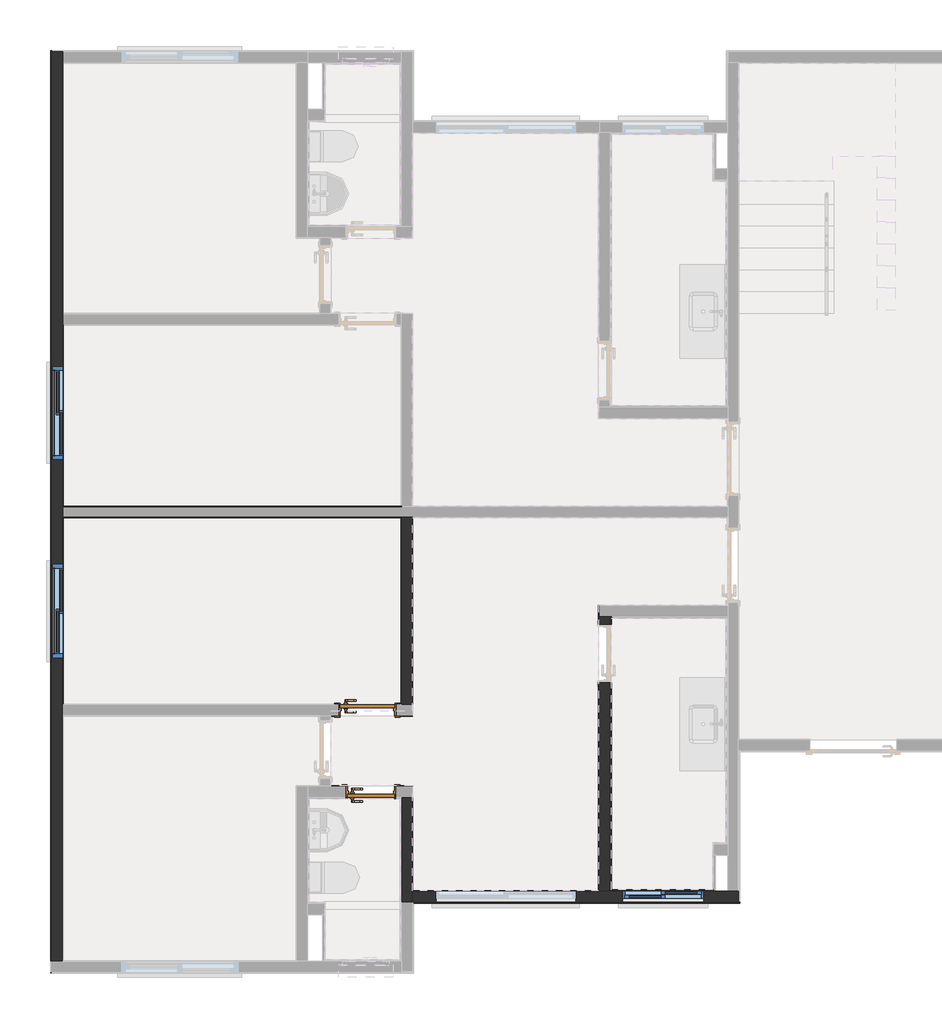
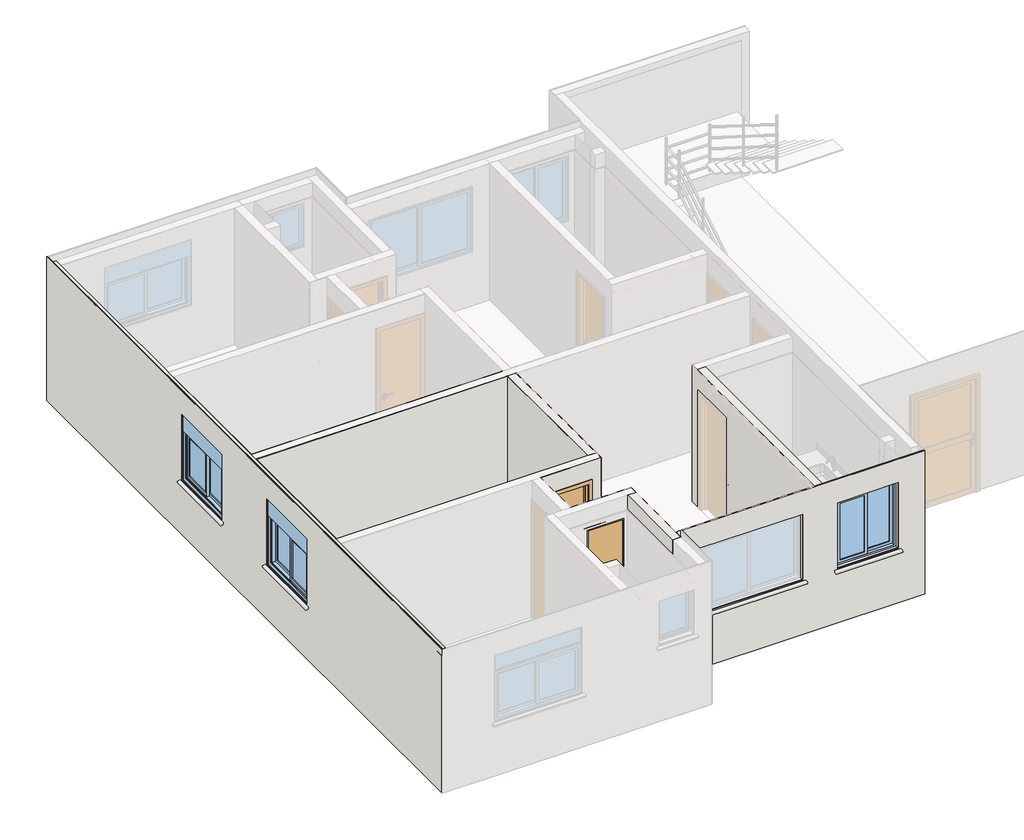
# One storey, part 2 of 11: 20 walls, 3 windows, 2 doors.
"""IFC4 building model written with IfcOpenShell, lengths in millimetres."""

from ifc_helpers import new_model, si_unit, frame, origin, origin_with_axes, place, context, project, spatial, polyline, outline, extrude, faceted_brep, transform, mapped, element, save
from components import porta_de_madeira_interna_60_x_210_porta_de_madeira_interna_53f76a03, porta_de_madeira_interna_70_x_210_porta_de_madeira_interna_d0067c94, window_105x120_f2d7c1f1, window_120x120_fed861a7, window_120x120_8f0dd2b5

model = new_model("IFC4")

# Units and contexts
model_context = context("Model", 3, world=origin())
ifc_project = project(units=[si_unit("LENGTHUNIT", "METRE", prefix="MILLI")], contexts=[model_context])

# Site, building, storey
site = spatial("IfcSite", under=ifc_project)
building = spatial("IfcBuilding", under=site)
storey = spatial("IfcBuildingStorey", under=building, Name="Térreo", Elevation=0.0)

# Doors
placement = place(None, origin())
porta_de_madeira_interna_60_x_210_porta_de_madeira_interna_shape = porta_de_madeira_interna_60_x_210_porta_de_madeira_interna_53f76a03(model_context)
element("IfcDoor", 1, ObjectType="Porta de Madeira Interna 60 x 210 : Porta de Madeira Interna 60 x 210", at=placement, inside=storey, context=model_context, shape_type="MappedRepresentation", body=[
    mapped(porta_de_madeira_interna_60_x_210_porta_de_madeira_interna_shape, transform((4137.9990083, 2796.8217615, 0.0), x_axis=(1.0, 0.0, 0.0), y_axis=(0.0, 1.0, 0.0), z_axis=(0.0, 0.0, 1.0))),
])
porta_de_madeira_interna_70_x_210_porta_de_madeira_interna_shape = porta_de_madeira_interna_70_x_210_porta_de_madeira_interna_d0067c94(model_context)
element("IfcDoor", 2, ObjectType="Porta de Madeira Interna 70 x 210 : Porta de Madeira Interna 70 x 210", at=placement, inside=storey, context=model_context, shape_type="MappedRepresentation", body=[
    mapped(porta_de_madeira_interna_70_x_210_porta_de_madeira_interna_shape, transform((4092.999908, 3853.1701411, 0.0), x_axis=(1.0, 0.0, 0.0), y_axis=(0.0, 1.0, 0.0), z_axis=(0.0, 0.0, 1.0))),
])

# Walls
element("IfcWall", 3, ObjectType="Alvenaria Estrutural", at=placement, inside=storey, context=model_context, shape_type="Brep", body=[
    faceted_brep([(29.9991825, 4525.0101878, 1000.0), (29.9991825, 4525.0101878, 2200.0), (169.9991825, 4525.0101878, 2200.0), (169.9991825, 4525.0101878, 1000.0), (127.4991825, 4525.0101878, 1000.0), (29.9991825, 8275.01044, 2200.0), (29.9991825, 8275.01044, 1000.0), (127.4991825, 8275.01044, 1000.0), (169.9991825, 8275.01044, 1000.0), (169.9991825, 8275.01044, 2200.0), (29.9991825, 619.9952456, 0.0), (29.9991825, 12319.9951043, 0.0), (169.9991825, 12319.9951043, 0.0), (169.9991825, 12180.0252435, 0.0), (169.9991825, 8956.0244803, 0.0), (169.9991825, 8950.0244803, 0.0), (169.9991825, 8810.0244803, 0.0), (169.9991825, 8804.0244803, 0.0), (169.9991825, 6476.0103139, 0.0), (169.9991825, 6470.0103139, 0.0), (169.9991825, 6330.0103139, 0.0), (169.9991825, 6324.0103139, 0.0), (169.9991825, 3925.9951411, 0.0), (169.9991825, 3919.9951411, 0.0), (169.9991825, 3779.9951411, 0.0), (169.9991825, 3773.9951411, 0.0), (169.9991825, 619.9952456, 0.0), (29.9991825, 619.9952456, 2510.0), (169.9991825, 619.9952456, 2510.0), (29.9991825, 12319.9951043, 2510.0), (169.9991825, 12319.9951043, 2510.0), (29.9991825, 4475.0101878, 951.3083694), (29.9991825, 4475.0101878, 1000.0), (127.4991825, 4475.0101878, 1000.0), (127.4991825, 4475.0101878, 972.0326341), (29.9991825, 5775.0101878, 1000.0), (29.9991825, 5775.0101878, 951.3083694), (127.4991825, 5775.0101878, 972.0326341), (127.4991825, 5775.0101878, 1000.0), (127.4991825, 5725.0101878, 1000.0), (29.9991825, 7025.01044, 951.3083694), (29.9991825, 7025.01044, 1000.0), (127.4991825, 7025.01044, 1000.0), (127.4991825, 7025.01044, 972.0326341), (29.9991825, 8325.01044, 1000.0), (29.9991825, 8325.01044, 951.3083694), (127.4991825, 8325.01044, 972.0326341), (127.4991825, 8325.01044, 1000.0), (127.4991825, 7075.01044, 1000.0), (29.9991825, 7075.01044, 1000.0), (29.9991825, 7075.01044, 2200.0), (29.9991825, 5725.0101878, 1000.0), (29.9991825, 5725.0101878, 2200.0), (169.9991825, 12180.0252435, 2510.0), (169.9991825, 8956.0244803, 2510.0), (169.9991825, 8950.0244803, 2510.0), (169.9991825, 8810.0244803, 2510.0), (169.9991825, 8804.0244803, 2510.0), (169.9991825, 6476.0103139, 2510.0), (169.9991825, 6470.0103139, 2510.0), (169.9991825, 6330.0103139, 2510.0), (169.9991825, 6324.0103139, 2510.0), (169.9991825, 3925.9951411, 2510.0), (169.9991825, 3919.9951411, 2510.0), (169.9991825, 3779.9951411, 2510.0), (169.9991825, 3773.9951411, 2510.0), (169.9991825, 5725.0101878, 2200.0), (169.9991825, 5725.0101878, 1000.0), (169.9991825, 7075.01044, 1000.0), (169.9991825, 7075.01044, 2200.0)], [[[0, 1, 2, 3, 4]], [[5, 6, 7, 8, 9]], [[10, 11, 12, 13, 14, 15, 16, 17, 18, 19, 20, 21, 22, 23, 24, 25, 26]], [[27, 10, 26, 28]], [[11, 29, 30, 12]], [[31, 32, 33, 34]], [[35, 36, 37, 38]], [[4, 39, 38, 37, 34, 33]], [[32, 0, 4, 33]], [[36, 31, 34, 37]], [[40, 41, 42, 43]], [[44, 45, 46, 47]], [[48, 7, 47, 46, 43, 42]], [[41, 49, 48, 42]], [[45, 40, 43, 46]], [[11, 10, 27, 29], [41, 40, 45, 44, 6, 5, 50, 49], [51, 52, 1, 0, 32, 31, 36, 35]], [[26, 25, 24, 23, 22, 21, 20, 19, 18, 17, 16, 15, 14, 13, 12, 30, 53, 54, 55, 56, 57, 58, 59, 60, 61, 62, 63, 64, 65, 28], [66, 67, 3, 2], [68, 69, 9, 8]], [[52, 51, 39, 67, 66]], [[1, 52, 66, 2]], [[3, 67, 39, 4]], [[49, 50, 69, 68, 48]], [[50, 5, 9, 69]], [[68, 8, 7, 48]], [[6, 44, 47, 7]], [[51, 35, 38, 39]], [[29, 27, 28, 65, 64, 63, 62, 61, 60, 59, 58, 57, 56, 55, 54, 53, 30]]]),
    faceted_brep([(29.9991825, 12319.9951043, 0.0), (29.9991825, 619.9952456, 0.0), (29.9991825, 619.9952456, 2510.0), (29.9991825, 12319.9951043, 2510.0), (29.9991825, 5725.0101878, 1000.0), (29.9991825, 5725.0101878, 2200.0), (29.9991825, 4525.0101878, 2200.0), (29.9991825, 4525.0101878, 1000.0), (29.9991825, 4475.0101878, 1000.0), (29.9991825, 4475.0101878, 951.3083694), (29.9991825, 5775.0101878, 951.3083694), (29.9991825, 5775.0101878, 1000.0), (29.9991825, 7025.01044, 1000.0), (29.9991825, 7025.01044, 951.3083694), (29.9991825, 8325.01044, 951.3083694), (29.9991825, 8325.01044, 1000.0), (29.9991825, 8275.01044, 1000.0), (29.9991825, 8275.01044, 2200.0), (29.9991825, 7075.01044, 2200.0), (29.9991825, 7075.01044, 1000.0), (169.9991825, 619.9952456, 0.0), (169.9991825, 3773.9951411, 0.0), (169.9991825, 3779.9951411, 0.0), (169.9991825, 3919.9951411, 0.0), (169.9991825, 3925.9951411, 0.0), (169.9991825, 6324.0103139, 0.0), (169.9991825, 6330.0103139, 0.0), (169.9991825, 6470.0103139, 0.0), (169.9991825, 6476.0103139, 0.0), (169.9991825, 8804.0244803, 0.0), (169.9991825, 8810.0244803, 0.0), (169.9991825, 8950.0244803, 0.0), (169.9991825, 8956.0244803, 0.0), (169.9991825, 12180.0252435, 0.0), (169.9991825, 12319.9951043, 0.0), (169.9991825, 12319.9951043, 2510.0), (169.9991825, 12180.0252435, 2510.0), (169.9991825, 8956.0244803, 2510.0), (169.9991825, 8950.0244803, 2510.0), (169.9991825, 8810.0244803, 2510.0), (169.9991825, 8804.0244803, 2510.0), (169.9991825, 6476.0103139, 2510.0), (169.9991825, 6470.0103139, 2510.0), (169.9991825, 6330.0103139, 2510.0), (169.9991825, 6324.0103139, 2510.0), (169.9991825, 3925.9951411, 2510.0), (169.9991825, 3919.9951411, 2510.0), (169.9991825, 3779.9951411, 2510.0), (169.9991825, 3773.9951411, 2510.0), (169.9991825, 619.9952456, 2510.0), (169.9991825, 5725.0101878, 2200.0), (169.9991825, 5725.0101878, 1000.0), (169.9991825, 4525.0101878, 1000.0), (169.9991825, 4525.0101878, 2200.0), (169.9991825, 7075.01044, 1000.0), (169.9991825, 7075.01044, 2200.0), (169.9991825, 8275.01044, 2200.0), (169.9991825, 8275.01044, 1000.0), (127.4991825, 5725.0101878, 1000.0), (127.4991825, 4525.0101878, 1000.0), (127.4991825, 7075.01044, 1000.0), (127.4991825, 8275.01044, 1000.0), (127.4991825, 4475.0101878, 1000.0), (127.4991825, 4475.0101878, 972.0326341), (127.4991825, 5775.0101878, 972.0326341), (127.4991825, 5775.0101878, 1000.0), (127.4991825, 7025.01044, 1000.0), (127.4991825, 7025.01044, 972.0326341), (127.4991825, 8325.01044, 972.0326341), (127.4991825, 8325.01044, 1000.0)], [[[0, 1, 2, 3], [4, 5, 6, 7, 8, 9, 10, 11], [12, 13, 14, 15, 16, 17, 18, 19]], [[20, 21, 22, 23, 24, 25, 26, 27, 28, 29, 30, 31, 32, 33, 34, 35, 36, 37, 38, 39, 40, 41, 42, 43, 44, 45, 46, 47, 48, 49], [50, 51, 52, 53], [54, 55, 56, 57]], [[5, 4, 58, 51, 50]], [[6, 5, 50, 53]], [[7, 6, 53, 52, 59]], [[52, 51, 58, 59]], [[19, 18, 55, 54, 60]], [[18, 17, 56, 55]], [[17, 16, 61, 57, 56]], [[54, 57, 61, 60]], [[1, 0, 34, 33, 32, 31, 30, 29, 28, 27, 26, 25, 24, 23, 22, 21, 20]], [[2, 1, 20, 49]], [[3, 2, 49, 48, 47, 46, 45, 44, 43, 42, 41, 40, 39, 38, 37, 36, 35]], [[0, 3, 35, 34]], [[9, 8, 62, 63]], [[11, 10, 64, 65]], [[59, 58, 65, 64, 63, 62]], [[8, 7, 59, 62]], [[10, 9, 63, 64]], [[13, 12, 66, 67]], [[15, 14, 68, 69]], [[60, 61, 69, 68, 67, 66]], [[12, 19, 60, 66]], [[14, 13, 67, 68]], [[16, 15, 69, 61]], [[4, 11, 65, 58]]]),
])
element("IfcWall", 4, ObjectType="Alvenaria Estrutural", at=placement, inside=storey, context=model_context, shape_type="Brep", body=[
    faceted_brep([(4529.9996867, 6330.0103139, 0.0), (4529.9996867, 6324.0103139, 0.0), (4529.9996867, 3925.9951411, 0.0), (4529.9996867, 3919.9951411, 0.0), (4529.9996867, 3919.9951411, 2510.0), (4529.9996867, 3925.9951411, 2510.0), (4529.9996867, 6324.0103139, 2510.0), (4529.9996867, 6330.0103139, 2510.0), (4669.9996867, 6330.0103139, 0.0), (4669.9996867, 6330.0103139, 2510.0), (4669.9996867, 6324.0103139, 2510.0), (4669.9996867, 3919.9951411, 2510.0), (4669.9996867, 3919.9951411, 0.0), (4669.9996867, 6324.0103139, 0.0)], [[[0, 1, 2, 3, 4, 5, 6, 7]], [[8, 9, 10, 11, 12, 13]], [[1, 0, 8, 13, 12, 3, 2]], [[5, 4, 11, 10, 9, 7, 6]], [[0, 7, 9, 8]], [[4, 3, 12, 11]]]),
    faceted_brep([(4529.9996867, 6324.0103139, 0.0), (4529.9996867, 6330.0103139, 0.0), (4669.9996867, 6330.0103139, 0.0), (4669.9996867, 6324.0103139, 0.0), (4669.9996867, 3919.9951411, 0.0), (4529.9996867, 3919.9951411, 0.0), (4529.9996867, 3925.9951411, 0.0), (4529.9996867, 3925.9951411, 2510.0), (4529.9996867, 3919.9951411, 2510.0), (4669.9996867, 3919.9951411, 2510.0), (4669.9996867, 6324.0103139, 2510.0), (4669.9996867, 6330.0103139, 2510.0), (4529.9996867, 6330.0103139, 2510.0), (4529.9996867, 6324.0103139, 2510.0)], [[[0, 1, 2, 3, 4, 5, 6]], [[7, 8, 9, 10, 11, 12, 13]], [[2, 11, 10, 9, 4, 3]], [[1, 0, 6, 5, 8, 7, 13, 12]], [[1, 12, 11, 2]], [[8, 5, 4, 9]]]),
])
element("IfcWall", 5, ObjectType="Alvenaria Estrutural", at=placement, inside=storey, context=model_context, shape_type="Brep", body=[
    faceted_brep([(4669.9990083, 1374.9970972, 0.0), (4669.9990083, 1519.9983274, 0.0), (4669.9990083, 1525.9983274, 0.0), (4669.9990083, 2729.9967615, 0.0), (4669.9990083, 2729.9967615, 2510.0), (4669.9990083, 1525.9983274, 2510.0), (4669.9990083, 1519.9983274, 2510.0), (4669.9990083, 1374.9970972, 2510.0), (4529.9990083, 1374.9970972, 0.0), (4529.9990083, 1374.9970972, 2510.0), (4529.9990083, 2729.9967615, 2510.0), (4529.9990083, 2729.9967615, 2250.0), (4529.9990083, 2729.9967615, 0.0), (4529.9990083, 2709.9967615, 0.0)], [[[0, 1, 2, 3, 4, 5, 6, 7]], [[8, 9, 10, 11, 12, 13]], [[1, 0, 8, 13, 12, 3, 2]], [[5, 4, 10, 9, 7, 6]], [[0, 7, 9, 8]], [[4, 3, 12, 11, 10]]]),
    faceted_brep([(4669.9990083, 1519.9983274, 0.0), (4669.9990083, 1374.9970972, 0.0), (4529.9990083, 1374.9970972, 0.0), (4529.9990083, 2709.9967615, 0.0), (4529.9990083, 2729.9967615, 0.0), (4669.9990083, 2729.9967615, 0.0), (4669.9990083, 1525.9983274, 0.0), (4669.9990083, 1525.9983274, 2510.0), (4669.9990083, 2729.9967615, 2510.0), (4529.9990083, 2729.9967615, 2510.0), (4529.9990083, 1374.9970972, 2510.0), (4669.9990083, 1374.9970972, 2510.0), (4669.9990083, 1519.9983274, 2510.0), (4529.9990083, 2729.9967615, 2250.0)], [[[0, 1, 2, 3, 4, 5, 6]], [[7, 8, 9, 10, 11, 12]], [[1, 11, 10, 2]], [[1, 0, 6, 5, 8, 7, 12, 11]], [[2, 10, 9, 13, 4, 3]], [[8, 5, 4, 13, 9]]]),
])
element("IfcWall", 6, ObjectType="Alvenaria Estrutural", at=placement, inside=storey, context=model_context, shape_type="Brep", body=[
    faceted_brep([(4669.9990083, 1379.9983274, 10.0), (8869.9990083, 1379.9983274, 10.0), (8869.9990083, 1379.9983274, 2520.0), (4669.9990083, 1379.9983274, 2520.0), (4924.99925, 1379.9983274, 951.3083694), (4924.99925, 1379.9983274, 1000.0), (4974.99925, 1379.9983274, 1000.0), (4974.99925, 1379.9983274, 2200.0), (6774.99925, 1379.9983274, 2200.0), (6774.99925, 1379.9983274, 1000.0), (6824.99925, 1379.9983274, 1000.0), (6824.99925, 1379.9983274, 951.3083694), (8474.99921, 1379.9983274, 1000.0), (8474.99921, 1379.9983274, 951.3083694), (7324.99921, 1379.9983274, 951.3083694), (7324.99921, 1379.9983274, 1000.0), (7374.99921, 1379.9983274, 1000.0), (7374.99921, 1379.9983274, 2200.0), (8424.99921, 1379.9983274, 2200.0), (8424.99921, 1379.9983274, 1000.0), (8869.9990083, 1519.9983274, 10.0), (4669.9990083, 1519.9983274, 10.0), (4669.9990083, 1519.9983274, 2510.0), (4669.9990083, 1519.9983274, 2520.0), (8869.9990083, 1519.9983274, 2520.0), (8424.99921, 1519.9983274, 1000.0), (8424.99921, 1519.9983274, 2200.0), (7374.99921, 1519.9983274, 2200.0), (7374.99921, 1519.9983274, 1000.0), (6774.99925, 1519.9983274, 1000.0), (6774.99925, 1519.9983274, 2200.0), (4974.99925, 1519.9983274, 2200.0), (4974.99925, 1519.9983274, 1000.0), (8474.99921, 1477.4983274, 1000.0), (8474.99921, 1477.4983274, 972.0326341), (7324.99921, 1477.4983274, 972.0326341), (7324.99921, 1477.4983274, 1000.0), (8424.99921, 1477.4983274, 1000.0), (7374.99921, 1477.4983274, 1000.0), (4924.99925, 1477.4983274, 972.0326341), (4924.99925, 1477.4983274, 1000.0), (6824.99925, 1477.4983274, 1000.0), (6824.99925, 1477.4983274, 972.0326341), (6774.99925, 1477.4983274, 1000.0), (4974.99925, 1477.4983274, 1000.0)], [[[0, 1, 2, 3], [4, 5, 6, 7, 8, 9, 10, 11], [12, 13, 14, 15, 16, 17, 18, 19]], [[20, 21, 22, 23, 24], [25, 26, 27, 28], [29, 30, 31, 32]], [[1, 0, 21, 20]], [[2, 1, 20, 24]], [[3, 2, 24, 23]], [[0, 3, 23, 22, 21]], [[13, 12, 33, 34]], [[15, 14, 35, 36]], [[34, 33, 37, 38, 36, 35]], [[12, 19, 37, 33]], [[14, 13, 34, 35]], [[19, 18, 26, 25, 37]], [[18, 17, 27, 26]], [[17, 16, 38, 28, 27]], [[25, 28, 38, 37]], [[5, 4, 39, 40]], [[11, 10, 41, 42]], [[40, 39, 42, 41, 43, 44]], [[6, 5, 40, 44]], [[4, 11, 42, 39]], [[9, 8, 30, 29, 43]], [[8, 7, 31, 30]], [[7, 6, 44, 32, 31]], [[29, 32, 44, 43]], [[10, 9, 43, 41]], [[16, 15, 36, 38]]]),
    faceted_brep([(8869.9990083, 1379.9983274, 2520.0), (8869.9990083, 1379.9983274, 10.0), (8869.9990083, 1519.9983274, 10.0), (8869.9990083, 1519.9983274, 2520.0), (4669.9990083, 1379.9983274, 2520.0), (4669.9990083, 1519.9983274, 2520.0), (4669.9990083, 1379.9983274, 10.0), (4669.9990083, 1519.9983274, 2510.0), (4669.9990083, 1519.9983274, 10.0), (8474.99921, 1379.9983274, 951.3083694), (8474.99921, 1379.9983274, 1000.0), (8474.99921, 1477.4983274, 1000.0), (8474.99921, 1477.4983274, 972.0326341), (7324.99921, 1379.9983274, 1000.0), (7324.99921, 1379.9983274, 951.3083694), (7324.99921, 1477.4983274, 972.0326341), (7324.99921, 1477.4983274, 1000.0), (8424.99921, 1477.4983274, 1000.0), (7374.99921, 1477.4983274, 1000.0), (8424.99921, 1379.9983274, 1000.0), (8424.99921, 1379.9983274, 2200.0), (8424.99921, 1519.9983274, 2200.0), (8424.99921, 1519.9983274, 1000.0), (7374.99921, 1379.9983274, 2200.0), (7374.99921, 1519.9983274, 2200.0), (7374.99921, 1379.9983274, 1000.0), (7374.99921, 1519.9983274, 1000.0), (6774.99925, 1519.9983274, 1000.0), (6774.99925, 1519.9983274, 2200.0), (4974.99925, 1519.9983274, 2200.0), (4974.99925, 1519.9983274, 1000.0), (4924.99925, 1379.9983274, 951.3083694), (4924.99925, 1379.9983274, 1000.0), (4974.99925, 1379.9983274, 1000.0), (4974.99925, 1379.9983274, 2200.0), (6774.99925, 1379.9983274, 2200.0), (6774.99925, 1379.9983274, 1000.0), (6824.99925, 1379.9983274, 1000.0), (6824.99925, 1379.9983274, 951.3083694), (4924.99925, 1477.4983274, 972.0326341), (4924.99925, 1477.4983274, 1000.0), (6824.99925, 1477.4983274, 1000.0), (6824.99925, 1477.4983274, 972.0326341), (6774.99925, 1477.4983274, 1000.0), (4974.99925, 1477.4983274, 1000.0)], [[[0, 1, 2, 3]], [[4, 0, 3, 5]], [[6, 4, 5, 7, 8]], [[9, 10, 11, 12]], [[13, 14, 15, 16]], [[12, 11, 17, 18, 16, 15]], [[10, 19, 17, 11]], [[14, 9, 12, 15]], [[19, 20, 21, 22, 17]], [[20, 23, 24, 21]], [[23, 25, 18, 26, 24]], [[22, 26, 18, 17]], [[25, 13, 16, 18]], [[8, 7, 5, 3, 2], [22, 21, 24, 26], [27, 28, 29, 30]], [[1, 0, 4, 6], [10, 9, 14, 13, 25, 23, 20, 19], [31, 32, 33, 34, 35, 36, 37, 38]], [[32, 31, 39, 40]], [[38, 37, 41, 42]], [[40, 39, 42, 41, 43, 44]], [[33, 32, 40, 44]], [[31, 38, 42, 39]], [[36, 35, 28, 27, 43]], [[35, 34, 29, 28]], [[34, 33, 44, 30, 29]], [[27, 30, 44, 43]], [[37, 36, 43, 41]], [[1, 6, 8, 2]]]),
])
element("IfcWall", 7, ObjectType="Alvenaria Estrutural", at=placement, inside=storey, context=model_context, shape_type="Brep", body=[
    faceted_brep([(7212.9986861, 1519.9983274, 0.0), (7212.9986861, 1519.9983274, 10.0), (7212.9986861, 1519.9983274, 2250.0), (7212.9986861, 1519.9983274, 2510.0), (7072.9986861, 1519.9983274, 2510.0), (7072.9986861, 1519.9983274, 10.0), (7072.9986861, 1519.9983274, 0.0), (7212.9986861, 1539.9983274, 0.0), (7072.9986861, 1525.9983274, 0.0), (7072.9986861, 4203.6603139, 0.0), (7212.9986861, 4203.6603139, 0.0), (7212.9986861, 4203.6603139, 10.0), (7072.9986861, 4203.6603139, 10.0), (7072.9986861, 4203.6603139, 2125.0), (7212.9986861, 4203.6603139, 2125.0), (7212.9986861, 4953.6603139, 0.0), (7212.9986861, 4953.6603139, 10.0), (7212.9986861, 4953.6603139, 2125.0), (7072.9986861, 4953.6603139, 2125.0), (7072.9986861, 4953.6603139, 10.0), (7072.9986861, 4953.6603139, 0.0), (7212.9986861, 5033.6603139, 0.0), (7072.9986861, 5053.6603139, 0.0), (7212.9986861, 5053.6603139, 0.0), (7212.9986861, 5053.6603139, 10.0), (7072.9986861, 5053.6603139, 10.0), (7072.9986861, 5053.6603139, 2510.0), (7212.9986861, 5053.6603139, 2510.0), (7212.9986861, 5053.6603139, 2250.0), (7072.9986861, 1525.9983274, 2510.0)], [[[0, 1, 2, 3, 4, 5, 6]], [[7, 0, 6, 8, 9, 10]], [[11, 10, 9, 12, 13, 14]], [[15, 16, 17, 18, 19, 20]], [[21, 15, 20, 22, 23]], [[24, 23, 22, 25, 26, 27, 28]], [[25, 22, 20, 19, 18, 13, 12, 9, 8, 6, 5, 4, 29, 26]], [[3, 27, 26, 29, 4]], [[17, 14, 13, 18]], [[16, 15, 21, 23, 24, 28, 27, 3, 2, 1, 0, 7, 10, 11, 14, 17]]]),
])
element("IfcWall", 8, ObjectType="Azulejo", at=placement, inside=storey, context=model_context, shape_type="Brep", body=[
    faceted_brep([(7233.0017324, 4203.6603139, 0.0), (7233.0017324, 1519.9983274, 0.0), (7223.0017324, 1519.9983274, 0.0), (7223.0017324, 4203.6603139, 0.0), (7223.0017324, 4203.6603139, 10.0), (7223.0017324, 4203.6603139, 2125.0), (7233.0017324, 4203.6603139, 2125.0), (7233.0017324, 4203.6603139, 10.0), (7233.0017324, 4953.6603139, 0.0), (7233.0017324, 4953.6603139, 10.0), (7233.0017324, 4953.6603139, 2125.0), (7223.0017324, 4953.6603139, 2125.0), (7223.0017324, 4953.6603139, 10.0), (7223.0017324, 4953.6603139, 0.0), (7223.0017324, 5053.6603139, 0.0), (7233.0017324, 5053.6603139, 0.0), (7233.0017324, 5053.6603139, 10.0), (7223.0017324, 5053.6603139, 10.0), (7223.0017324, 5053.6603139, 2250.0), (7233.0017324, 5053.6603139, 2250.0), (7233.0017324, 1519.9983274, 10.0), (7233.0017324, 1519.9983274, 2250.0), (7223.0017324, 1519.9983274, 2250.0), (7223.0017324, 1519.9983274, 10.0)], [[[0, 1, 2, 3]], [[0, 3, 4, 5, 6, 7]], [[8, 9, 10, 11, 12, 13]], [[8, 13, 14, 15]], [[16, 15, 14, 17, 18, 19]], [[2, 1, 20, 21, 22, 23]], [[1, 0, 7, 6, 10, 9, 8, 15, 16, 19, 21, 20]], [[3, 2, 23, 22, 18, 17, 14, 13, 12, 11, 5, 4]], [[10, 6, 5, 11]], [[21, 19, 18, 22]]]),
    faceted_brep([(7223.0017324, 4203.6603139, 0.0), (7223.0017324, 1519.9983274, 0.0), (7213.0017324, 1519.9983274, 0.0), (7213.0017324, 4203.6603139, 0.0), (7223.0017324, 4203.6603139, 10.0), (7213.0017324, 4203.6603139, 10.0), (7213.0017324, 4203.6603139, 2125.0), (7223.0017324, 4203.6603139, 2125.0), (7223.0017324, 4953.6603139, 0.0), (7223.0017324, 4953.6603139, 10.0), (7223.0017324, 4953.6603139, 2125.0), (7213.0017324, 4953.6603139, 2125.0), (7213.0017324, 4953.6603139, 10.0), (7213.0017324, 4953.6603139, 0.0), (7223.0017324, 5053.6603139, 0.0), (7213.0017324, 5053.6603139, 0.0), (7223.0017324, 5053.6603139, 10.0), (7213.0017324, 5053.6603139, 10.0), (7213.0017324, 5053.6603139, 2250.0), (7223.0017324, 5053.6603139, 2250.0), (7223.0017324, 1519.9983274, 10.0), (7223.0017324, 1519.9983274, 2250.0), (7213.0017324, 1519.9983274, 2250.0), (7213.0017324, 1519.9983274, 10.0)], [[[0, 1, 2, 3]], [[4, 0, 3, 5, 6, 7]], [[8, 9, 10, 11, 12, 13]], [[14, 8, 13, 15]], [[16, 14, 15, 17, 18, 19]], [[1, 20, 21, 22, 23, 2]], [[17, 15, 13, 12, 11, 6, 5, 3, 2, 23, 22, 18]], [[10, 7, 6, 11]], [[21, 19, 18, 22]], [[9, 8, 14, 16, 19, 21, 20, 1, 0, 4, 7, 10]]]),
])
element("IfcWall", 9, ObjectType="Azulejo", at=placement, inside=storey, context=model_context, shape_type="SolidModel", body=[
    faceted_brep([(8536.99631, 1539.9983274, 0.0), (8546.99631, 1539.9983274, 0.0), (8546.99631, 1529.9983274, 0.0), (7212.9986861, 1529.9983274, 0.0), (7212.9986861, 1539.9983274, 0.0), (8536.99631, 1539.9983274, 2250.0), (7212.9986861, 1539.9983274, 2250.0), (7212.9986861, 1529.9983274, 2250.0), (8546.99631, 1529.9983274, 2250.0), (8546.99631, 1539.9983274, 2250.0), (8424.99921, 1539.9983274, 2200.0), (8424.99921, 1539.9983274, 1000.0), (8424.99921, 1529.9983274, 1000.0), (8424.99921, 1529.9983274, 2200.0), (7374.99921, 1539.9983274, 2200.0), (7374.99921, 1529.9983274, 2200.0), (7374.99921, 1539.9983274, 1000.0), (7374.99921, 1529.9983274, 1000.0)], [[[0, 1, 2, 3, 4]], [[5, 6, 7, 8, 9]], [[10, 11, 12, 13]], [[14, 10, 13, 15]], [[16, 14, 15, 17]], [[11, 16, 17, 12]], [[6, 4, 3, 7]], [[1, 9, 8, 2]], [[3, 2, 8, 7], [13, 12, 17, 15]], [[4, 6, 5, 9, 1, 0], [11, 10, 14, 16]]]),
    extrude(outline(polyline([(0.0, 7212.9986861), (0.0, 8546.99631), (2250.0, 8546.99631), (2250.0, 7212.9986861), (0.0, 7212.9986861)]), holes=[polyline([(1000.0, 8424.99921), (1000.0, 7374.99921), (2200.0, 7374.99921), (2200.0, 8424.99921), (1000.0, 8424.99921)])]), frame((0.0, 1519.9983274, 0.0), z_axis=(0.0, 1.0, 0.0), x_axis=(0.0, 0.0, 1.0)), (0.0, 0.0, 1.0), 10.0),
])
element("IfcWall", 10, ObjectType="Gesso Liso + Pintura", at=placement, inside=storey, context=model_context, shape_type="SweptSolid", body=[
    extrude(outline(polyline([(8810.0244803, 0.0), (6470.0103139, 0.0), (6470.0103139, 2510.0), (8810.0244803, 2510.0), (8810.0244803, 0.0)]), holes=[polyline([(7075.01044, 2200.0), (7075.01044, 1000.0), (8275.01044, 1000.0), (8275.01044, 2200.0), (7075.01044, 2200.0)])]), frame((174.9991825, 0.0, 0.0), z_axis=(1.0, 0.0, 0.0), x_axis=(0.0, 1.0, 0.0)), (0.0, 0.0, 1.0), 1.0),
    extrude(outline(polyline([(6470.0103139, 0.0), (6470.0103139, 2510.0), (8810.0244803, 2510.0), (8810.0244803, 0.0), (6470.0103139, 0.0)]), holes=[polyline([(7075.01044, 1000.0), (8275.01044, 1000.0), (8275.01044, 2200.0), (7075.01044, 2200.0), (7075.01044, 1000.0)])]), frame((169.9991825, 0.0, 0.0), z_axis=(1.0, 0.0, 0.0), x_axis=(0.0, 1.0, 0.0)), (0.0, 0.0, 1.0), 5.0),
])
element("IfcWall", 11, ObjectType="Gesso Liso + Pintura", at=placement, inside=storey, context=model_context, shape_type="SweptSolid", body=[
    extrude(outline(polyline([(169.9991825, 6476.0103139), (4529.9996867, 6476.0103139), (4529.9996867, 6475.0103139), (169.9991825, 6475.0103139), (169.9991825, 6476.0103139)])), origin_with_axes(), (0.0, 0.0, 1.0), 2510.0),
    extrude(outline(polyline([(4529.9996867, 6470.0103139), (169.9991825, 6470.0103139), (169.9991825, 6475.0103139), (4529.9996867, 6475.0103139), (4529.9996867, 6470.0103139)])), origin_with_axes(), (0.0, 0.0, 1.0), 2510.0),
])
element("IfcWall", 12, ObjectType="Gesso Liso + Pintura", at=placement, inside=storey, context=model_context, shape_type="SweptSolid", body=[
    extrude(outline(polyline([(6330.0103139, 0.0), (3919.9951411, 0.0), (3919.9951411, 2510.0), (6330.0103139, 2510.0), (6330.0103139, 0.0)]), holes=[polyline([(5725.0101878, 1000.0), (5725.0101878, 2200.0), (4525.0101878, 2200.0), (4525.0101878, 1000.0), (5725.0101878, 1000.0)])]), frame((174.9991825, 0.0, 0.0), z_axis=(1.0, 0.0, 0.0), x_axis=(0.0, 1.0, 0.0)), (0.0, 0.0, 1.0), 1.0),
    extrude(outline(polyline([(6330.0103139, 0.0), (3919.9951411, 0.0), (3919.9951411, 2510.0), (6330.0103139, 2510.0), (6330.0103139, 0.0)]), holes=[polyline([(5725.0101878, 1000.0), (5725.0101878, 2200.0), (4525.0101878, 2200.0), (4525.0101878, 1000.0), (5725.0101878, 1000.0)])]), frame((169.9991825, 0.0, 0.0), z_axis=(1.0, 0.0, 0.0), x_axis=(0.0, 1.0, 0.0)), (0.0, 0.0, 1.0), 5.0),
])
element("IfcWall", 13, ObjectType="Gesso Liso + Pintura", at=placement, inside=storey, context=model_context, shape_type="SweptSolid", body=[
    extrude(outline(polyline([(4523.9996867, 3919.9951411), (4523.9996867, 6330.0103139), (4524.9996867, 6330.0103139), (4524.9996867, 3919.9951411), (4523.9996867, 3919.9951411)])), origin_with_axes(), (0.0, 0.0, 1.0), 2510.0),
    extrude(outline(polyline([(4529.9996867, 6330.0103139), (4529.9996867, 3919.9951411), (4524.9996867, 3919.9951411), (4524.9996867, 6330.0103139), (4529.9996867, 6330.0103139)])), origin_with_axes(), (0.0, 0.0, 1.0), 2510.0),
])
element("IfcWall", 14, ObjectType="Gesso Liso + Pintura", at=placement, inside=storey, context=model_context, shape_type="SweptSolid", body=[
    extrude(outline(polyline([(4529.9996867, 6324.0103139), (169.9991825, 6324.0103139), (169.9991825, 6325.0103139), (4529.9996867, 6325.0103139), (4529.9996867, 6324.0103139)])), origin_with_axes(), (0.0, 0.0, 1.0), 2510.0),
    extrude(outline(polyline([(169.9991825, 6330.0103139), (4529.9996867, 6330.0103139), (4529.9996867, 6325.0103139), (169.9991825, 6325.0103139), (169.9991825, 6330.0103139)])), origin_with_axes(), (0.0, 0.0, 1.0), 2510.0),
])
element("IfcWall", 15, ObjectType="Gesso Liso + Pintura", at=placement, inside=storey, context=model_context, shape_type="Brep", body=[
    faceted_brep([(4675.9990083, 2875.9967615, 0.0), (4675.9990083, 1519.9983274, 0.0), (4674.9990083, 1519.9983274, 0.0), (4674.9990083, 2875.9967615, 0.0), (4674.9990083, 2875.9967615, 10.0), (4674.9990083, 2875.9967615, 2510.0), (4675.9990083, 2875.9967615, 2510.0), (4675.9990083, 2875.9967615, 10.0), (4675.9990083, 1519.9983274, 10.0), (4675.9990083, 1519.9983274, 2510.0), (4674.9990083, 1519.9983274, 2510.0), (4674.9990083, 1519.9983274, 10.0)], [[[0, 1, 2, 3]], [[0, 3, 4, 5, 6, 7]], [[2, 1, 8, 9, 10, 11]], [[1, 0, 7, 6, 9, 8]], [[3, 2, 11, 10, 5, 4]], [[9, 6, 5, 10]]]),
    faceted_brep([(4674.9990083, 1519.9983274, 0.0), (4674.9990083, 2874.9967615, 0.0), (4674.9990083, 2874.9967615, 10.0), (4674.9990083, 2874.9967615, 2510.0), (4674.9990083, 1519.9983274, 2510.0), (4674.9990083, 1519.9983274, 10.0), (4669.9990083, 1519.9983274, 0.0), (4669.9990083, 2869.9967615, 0.0), (4669.9990083, 2874.9967615, 0.0), (4669.9990083, 1519.9983274, 2510.0), (4669.9990083, 1519.9983274, 10.0), (4669.9990083, 2869.9967615, 2510.0), (4669.9990083, 2874.9967615, 2510.0), (4669.9990083, 2874.9967615, 10.0)], [[[0, 1, 2, 3, 4, 5]], [[1, 0, 6, 7, 8]], [[0, 5, 4, 9, 10, 6]], [[6, 10, 9, 11, 12, 13, 8, 7]], [[8, 13, 12, 3, 2, 1]], [[4, 3, 12, 11, 9]]]),
])
element("IfcWall", 16, ObjectType="Gesso Liso + Pintura", at=placement, inside=storey, context=model_context, shape_type="SweptSolid", body=[
    extrude(outline(polyline([(0.0, 4462.9990083), (0.0, 4674.9990083), (2510.0, 4674.9990083), (2510.0, 3619.9980641), (0.0, 3619.9980641), (0.0, 3812.9990083), (2125.0, 3812.9990083), (2125.0, 4462.9990083), (0.0, 4462.9990083)])), frame((0.0, 2874.9967615, 0.0), z_axis=(0.0, 1.0, 0.0), x_axis=(0.0, 0.0, 1.0)), (0.0, 0.0, 1.0), 1.0),
    extrude(outline(polyline([(2510.0, 4669.9990083), (2510.0, 3619.9980641), (0.0, 3619.9980641), (0.0, 3812.9990083), (2125.0, 3812.9990083), (2125.0, 4462.9990083), (0.0, 4462.9990083), (0.0, 4669.9990083), (2510.0, 4669.9990083)])), frame((0.0, 2869.9967615, 0.0), z_axis=(0.0, 1.0, 0.0), x_axis=(0.0, 0.0, 1.0)), (0.0, 0.0, 1.0), 5.0),
])
element("IfcWall", 17, ObjectType="Gesso Liso + Pintura", at=placement, inside=storey, context=model_context, shape_type="SolidModel", body=[
    extrude(outline(polyline([(2510.0, 4675.9996867), (2510.0, 3619.9980641), (0.0, 3619.9980641), (0.0, 3717.999908), (2125.0, 3717.999908), (2125.0, 4467.999908), (0.0, 4467.999908), (0.0, 4675.9996867), (2510.0, 4675.9996867)])), frame((0.0, 3773.9951411, 0.0), z_axis=(0.0, 1.0, 0.0), x_axis=(0.0, 0.0, 1.0)), (0.0, 0.0, 1.0), 1.0),
    faceted_brep([(4467.999908, 3774.9951411, 0.0), (4674.9996867, 3774.9951411, 0.0), (4674.9996867, 3774.9951411, 2510.0), (3619.9980641, 3774.9951411, 2510.0), (3619.9980641, 3774.9951411, 0.0), (3717.999908, 3774.9951411, 0.0), (3717.999908, 3774.9951411, 2125.0), (4467.999908, 3774.9951411, 2125.0), (3619.9980641, 3779.9951411, 2510.0), (4669.9996867, 3779.9951411, 2510.0), (4674.9996867, 3779.9951411, 2510.0), (4674.9996867, 3779.9951411, 0.0), (4669.9996867, 3779.9951411, 0.0), (4467.999908, 3779.9951411, 0.0), (4467.999908, 3779.9951411, 2125.0), (3717.999908, 3779.9951411, 2125.0), (3717.999908, 3779.9951411, 0.0), (3619.9980641, 3779.9951411, 0.0)], [[[0, 1, 2, 3, 4, 5, 6, 7]], [[8, 9, 10, 11, 12, 13, 14, 15, 16, 17]], [[17, 16, 5, 4]], [[9, 8, 3, 2, 10]], [[14, 13, 0, 7]], [[15, 14, 7, 6]], [[16, 15, 6, 5]], [[8, 17, 4, 3]], [[12, 11, 1, 0, 13]], [[11, 10, 2, 1]]]),
])
element("IfcWall", 18, ObjectType="Gesso Liso + Pintura", at=placement, inside=storey, context=model_context, shape_type="SweptSolid", body=[
    extrude(outline(polyline([(4675.9996867, 6330.0103139), (4675.9996867, 3774.9951411), (4674.9996867, 3774.9951411), (4674.9996867, 6330.0103139), (4675.9996867, 6330.0103139)])), origin_with_axes(), (0.0, 0.0, 1.0), 2510.0),
    extrude(outline(polyline([(4669.9996867, 3779.9951411), (4669.9996867, 6330.0103139), (4674.9996867, 6330.0103139), (4674.9996867, 3779.9951411), (4669.9996867, 3779.9951411)])), origin_with_axes(), (0.0, 0.0, 1.0), 2510.0),
])
element("IfcWall", 19, ObjectType="Gesso Liso + Pintura", at=placement, inside=storey, context=model_context, shape_type="Brep", body=[
    faceted_brep([(7066.9986861, 4203.6603139, 0.0), (7067.9986861, 4203.6603139, 0.0), (7067.9986861, 1519.9983274, 0.0), (7066.9986861, 1519.9983274, 0.0), (7066.9986861, 1519.9983274, 10.0), (7067.9986861, 1519.9983274, 10.0), (7067.9986861, 1519.9983274, 2510.0), (7066.9986861, 1519.9983274, 2510.0), (7066.9986861, 4953.6603139, 0.0), (7066.9986861, 5198.6603139, 0.0), (7067.9986861, 5198.6603139, 0.0), (7067.9986861, 4953.6603139, 0.0), (7067.9986861, 4953.6603139, 10.0), (7067.9986861, 4953.6603139, 2125.0), (7066.9986861, 4953.6603139, 2125.0), (7066.9986861, 4953.6603139, 10.0), (7066.9986861, 4203.6603139, 10.0), (7066.9986861, 4203.6603139, 2125.0), (7067.9986861, 4203.6603139, 2125.0), (7067.9986861, 4203.6603139, 10.0), (7066.9986861, 5198.6603139, 10.0), (7066.9986861, 5198.6603139, 2510.0), (7067.9986861, 5198.6603139, 2510.0), (7067.9986861, 5198.6603139, 10.0)], [[[0, 1, 2, 3]], [[4, 3, 2, 5, 6, 7]], [[8, 9, 10, 11]], [[8, 11, 12, 13, 14, 15]], [[0, 16, 17, 18, 19, 1]], [[9, 20, 21, 22, 23, 10]], [[21, 7, 6, 22]], [[17, 14, 13, 18]], [[1, 19, 18, 13, 12, 11, 10, 23, 22, 6, 5, 2]], [[16, 0, 3, 4, 7, 21, 20, 9, 8, 15, 14, 17]]]),
    faceted_brep([(7067.9986861, 1519.9983274, 0.0), (7067.9986861, 4203.6603139, 0.0), (7072.9986861, 4203.6603139, 0.0), (7072.9986861, 1519.9983274, 0.0), (7067.9986861, 1519.9983274, 10.0), (7072.9986861, 1519.9983274, 10.0), (7072.9986861, 1519.9983274, 2510.0), (7067.9986861, 1519.9983274, 2510.0), (7067.9986861, 5193.6603139, 0.0), (7067.9986861, 5193.6603139, 10.0), (7067.9986861, 5193.6603139, 2510.0), (7072.9986861, 5193.6603139, 2510.0), (7072.9986861, 5193.6603139, 10.0), (7072.9986861, 5193.6603139, 0.0), (7067.9986861, 4953.6603139, 0.0), (7072.9986861, 5053.6603139, 0.0), (7072.9986861, 4953.6603139, 0.0), (7067.9986861, 4953.6603139, 10.0), (7072.9986861, 4953.6603139, 10.0), (7072.9986861, 4953.6603139, 2125.0), (7067.9986861, 4953.6603139, 2125.0), (7067.9986861, 4203.6603139, 10.0), (7067.9986861, 4203.6603139, 2125.0), (7072.9986861, 4203.6603139, 2125.0), (7072.9986861, 4203.6603139, 10.0), (7072.9986861, 5053.6603139, 2510.0)], [[[0, 1, 2, 3]], [[4, 0, 3, 5, 6, 7]], [[8, 9, 10, 11, 12, 13]], [[14, 8, 13, 15, 16]], [[17, 14, 16, 18, 19, 20]], [[1, 21, 22, 23, 24, 2]], [[5, 3, 2, 24, 23, 19, 18, 16, 15, 13, 12, 11, 25, 6]], [[10, 7, 6, 25, 11]], [[22, 20, 19, 23]], [[1, 0, 4, 7, 10, 9, 8, 14, 17, 20, 22, 21]]]),
])
element("IfcWall", 20, ObjectType="Gesso Liso + Pintura", at=placement, inside=storey, context=model_context, shape_type="SolidModel", body=[
    extrude(outline(polyline([(0.0, 4669.9990083), (0.0, 7072.9986861), (2510.0, 7072.9986861), (2510.0, 4669.9990083), (0.0, 4669.9990083)]), holes=[polyline([(2200.0, 6774.99925), (1000.0, 6774.99925), (1000.0, 4974.99925), (2200.0, 4974.99925), (2200.0, 6774.99925)])]), frame((0.0, 1524.9983274, 0.0), z_axis=(0.0, 1.0, 0.0), x_axis=(0.0, 0.0, 1.0)), (0.0, 0.0, 1.0), 1.0),
    faceted_brep([(7072.9986861, 1524.9983274, 0.0), (4669.9990083, 1524.9983274, 0.0), (4669.9990083, 1524.9983274, 2510.0), (7072.9986861, 1524.9983274, 2510.0), (6774.99925, 1524.9983274, 1000.0), (6774.99925, 1524.9983274, 2200.0), (4974.99925, 1524.9983274, 2200.0), (4974.99925, 1524.9983274, 1000.0), (7072.9986861, 1519.9983274, 0.0), (7072.9986861, 1519.9983274, 2510.0), (4669.9990083, 1519.9983274, 2510.0), (4669.9990083, 1519.9983274, 10.0), (4669.9990083, 1519.9983274, 0.0), (6774.99925, 1519.9983274, 1000.0), (4974.99925, 1519.9983274, 1000.0), (4974.99925, 1519.9983274, 2200.0), (6774.99925, 1519.9983274, 2200.0)], [[[0, 1, 2, 3], [4, 5, 6, 7]], [[8, 9, 10, 11, 12], [13, 14, 15, 16]], [[8, 12, 1, 0]], [[10, 9, 3, 2]], [[13, 16, 5, 4]], [[16, 15, 6, 5]], [[15, 14, 7, 6]], [[14, 13, 4, 7]], [[9, 8, 0, 3]], [[11, 10, 2, 1, 12]]]),
])
element("IfcWall", 21, ObjectType="Reboco + Pintura Externa", at=placement, inside=storey, context=model_context, shape_type="SolidModel", body=[
    extrude(outline(polyline([(0.0, 4685.9986472), (0.0, 8886.0600094), (2630.0, 8886.0600094), (2630.0, 4685.9986472), (0.0, 4685.9986472)]), holes=[polyline([(1000.0, 8424.99921), (1000.0, 7374.99921), (2200.0, 7374.99921), (2200.0, 8424.99921), (1000.0, 8424.99921)]), polyline([(1000.0, 6774.99925), (1000.0, 4974.99925), (2200.0, 4974.99925), (2200.0, 6774.99925), (1000.0, 6774.99925)])]), frame((0.0, 1363.9983274, 0.0), z_axis=(0.0, 1.0, 0.0), x_axis=(0.0, 0.0, 1.0)), (0.0, 0.0, 1.0), 1.0),
    faceted_brep([(4684.9986472, 1374.9983274, 0.0), (8875.0600094, 1374.9983274, 0.0), (8875.0600094, 1374.9983274, 2630.0), (4684.9986472, 1374.9983274, 2630.0), (6774.99925, 1374.9983274, 2200.0), (6774.99925, 1374.9983274, 1000.0), (4974.99925, 1374.9983274, 1000.0), (4974.99925, 1374.9983274, 2200.0), (8424.99921, 1374.9983274, 2200.0), (8424.99921, 1374.9983274, 1000.0), (7374.99921, 1374.9983274, 1000.0), (7374.99921, 1374.9983274, 2200.0), (8870.0600094, 1379.9983274, 0.0), (8875.0600094, 1379.9983274, 0.0), (4684.9986472, 1379.9983274, 0.0), (8870.0600094, 1379.9983274, 2630.0), (4684.9986472, 1379.9983274, 2630.0), (8875.0600094, 1379.9983274, 2630.0), (8424.99921, 1379.9983274, 2200.0), (8424.99921, 1379.9983274, 1000.0), (7374.99921, 1379.9983274, 2200.0), (7374.99921, 1379.9983274, 1000.0), (6774.99925, 1379.9983274, 2200.0), (6774.99925, 1379.9983274, 1000.0), (4974.99925, 1379.9983274, 2200.0), (4974.99925, 1379.9983274, 1000.0)], [[[0, 1, 2, 3], [4, 5, 6, 7], [8, 9, 10, 11]], [[12, 13, 1, 0, 14]], [[15, 16, 3, 2, 17]], [[18, 19, 9, 8]], [[20, 18, 8, 11]], [[21, 20, 11, 10]], [[19, 21, 10, 9]], [[22, 23, 5, 4]], [[24, 22, 4, 7]], [[25, 24, 7, 6]], [[23, 25, 6, 5]], [[14, 16, 15, 17, 13, 12], [19, 18, 20, 21], [23, 22, 24, 25]], [[16, 14, 0, 3]], [[13, 17, 2, 1]]]),
    extrude(outline(polyline([(0.0, 4684.9986472), (0.0, 8885.0600094), (2630.0, 8885.0600094), (2630.0, 4684.9986472), (0.0, 4684.9986472)]), holes=[polyline([(2200.0, 6774.99925), (1000.0, 6774.99925), (1000.0, 4974.99925), (2200.0, 4974.99925), (2200.0, 6774.99925)]), polyline([(2200.0, 8424.99921), (1000.0, 8424.99921), (1000.0, 7374.99921), (2200.0, 7374.99921), (2200.0, 8424.99921)])]), frame((0.0, 1364.9983274, 0.0), z_axis=(0.0, 1.0, 0.0), x_axis=(0.0, 0.0, 1.0)), (0.0, 0.0, 1.0), 10.0),
])
element("IfcWall", 22, ObjectType="Reboco + Pintura Externa", at=placement, inside=storey, context=model_context, shape_type="SolidModel", body=[
    extrude(outline(polyline([(464.9952456, 0.0), (464.9952456, 2630.0), (12335.9952456, 2630.0), (12335.9952456, 0.0), (464.9952456, 0.0)]), holes=[polyline([(7075.01044, 1000.0), (8275.01044, 1000.0), (8275.01044, 2200.0), (7075.01044, 2200.0), (7075.01044, 1000.0)]), polyline([(5725.0101878, 1000.0), (5725.0101878, 2200.0), (4525.0101878, 2200.0), (4525.0101878, 1000.0), (5725.0101878, 1000.0)])]), frame((13.9976538, 0.0, 0.0), z_axis=(1.0, 0.0, 0.0), x_axis=(0.0, 1.0, 0.0)), (0.0, 0.0, 1.0), 1.0),
    faceted_brep([(24.9976538, 475.9952456, 2630.0), (24.9976538, 12324.9952456, 2630.0), (24.9976538, 12324.9952456, 0.0), (24.9976538, 619.9952456, 0.0), (24.9976538, 619.9952456, 2510.0), (24.9976538, 479.9952456, 2510.0), (24.9976538, 479.9952456, 0.0), (24.9976538, 475.9952456, 0.0), (24.9976538, 5725.0101878, 1000.0), (24.9976538, 5725.0101878, 2200.0), (24.9976538, 4525.0101878, 2200.0), (24.9976538, 4525.0101878, 1000.0), (24.9976538, 7075.01044, 2200.0), (24.9976538, 7075.01044, 1000.0), (24.9976538, 8275.01044, 1000.0), (24.9976538, 8275.01044, 2200.0), (29.9976538, 479.9952456, 0.0), (29.9976538, 475.9952456, 0.0), (29.9976538, 475.9952456, 2630.0), (29.9976538, 480.9952456, 2630.0), (29.9976538, 12319.9952456, 2630.0), (29.9976538, 12324.9952456, 2630.0), (29.9976538, 7075.01044, 2200.0), (29.9976538, 7075.01044, 1000.0), (29.9976538, 8275.01044, 2200.0), (29.9976538, 8275.01044, 1000.0), (29.9976538, 5725.0101878, 1000.0), (29.9976538, 5725.0101878, 2200.0), (29.9976538, 4525.0101878, 2200.0), (29.9976538, 4525.0101878, 1000.0), (29.9976538, 479.9952456, 2510.0), (29.9976538, 619.9952456, 2510.0), (29.9976538, 619.9952456, 0.0), (29.9976538, 12319.9952456, 0.0), (29.9976538, 12324.9952456, 0.0)], [[[0, 1, 2, 3, 4, 5, 6, 7], [8, 9, 10, 11], [12, 13, 14, 15]], [[16, 17, 7, 6]], [[1, 0, 18, 19, 20, 21]], [[13, 12, 22, 23]], [[12, 15, 24, 22]], [[15, 14, 25, 24]], [[14, 13, 23, 25]], [[9, 8, 26, 27]], [[10, 9, 27, 28]], [[11, 10, 28, 29]], [[8, 11, 29, 26]], [[17, 16, 30, 31, 32, 33, 34, 21, 20, 19, 18], [23, 22, 24, 25], [27, 26, 29, 28]], [[21, 34, 2, 1]], [[17, 18, 0, 7]], [[5, 30, 16, 6]], [[31, 4, 3, 32]], [[30, 5, 4, 31]], [[34, 33, 32, 3, 2]]]),
    extrude(outline(polyline([(465.9952456, 2630.0), (12334.9952456, 2630.0), (12334.9952456, 0.0), (619.9952456, 0.0), (619.9952456, 2510.0), (479.9952456, 2510.0), (479.9952456, 0.0), (465.9952456, 0.0), (465.9952456, 2630.0)]), holes=[polyline([(5725.0101878, 1000.0), (5725.0101878, 2200.0), (4525.0101878, 2200.0), (4525.0101878, 1000.0), (5725.0101878, 1000.0)]), polyline([(7075.01044, 2200.0), (7075.01044, 1000.0), (8275.01044, 1000.0), (8275.01044, 2200.0), (7075.01044, 2200.0)])]), frame((14.9976538, 0.0, 0.0), z_axis=(1.0, 0.0, 0.0), x_axis=(0.0, 1.0, 0.0)), (0.0, 0.0, 1.0), 10.0),
])

# Windows
window_105x120_shape = window_105x120_f2d7c1f1(model_context)
element("IfcWindow", 23, ObjectType="Janela de correr - 2 Painéis : 105x120", at=placement, inside=storey, context=model_context, shape_type="MappedRepresentation", body=[
    mapped(window_105x120_shape, transform((7899.99921, 1449.9983274, 350.0), x_axis=(-1.0, 0.0, 0.0), y_axis=(0.0, -1.0, 0.0), z_axis=(0.0, 0.0, 1.0))),
])
window_120x120_shape = window_120x120_fed861a7(model_context)
element("IfcWindow", 24, ObjectType="Veneziana - 2 Painéis : 120x120", at=placement, inside=storey, context=model_context, shape_type="MappedRepresentation", body=[
    mapped(window_120x120_shape, transform((99.9991825, 5125.0101878, 350.0), x_axis=(0.0, -1.0, 0.0), y_axis=(1.0, 0.0, 0.0), z_axis=(0.0, 0.0, 1.0))),
])
window_120x120_2_shape = window_120x120_8f0dd2b5(model_context)
element("IfcWindow", 25, ObjectType="Veneziana - 2 Painéis : 120x120", at=placement, inside=storey, context=model_context, shape_type="MappedRepresentation", body=[
    mapped(window_120x120_2_shape, transform((99.9991825, 7675.01044, 350.0), x_axis=(0.0, 1.0, 0.0), y_axis=(-1.0, 0.0, 0.0), z_axis=(0.0, 0.0, 1.0))),
])

save(model, "model.ifc")
